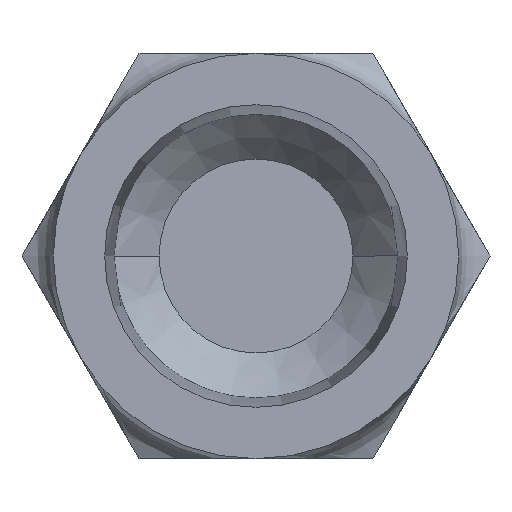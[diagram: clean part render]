
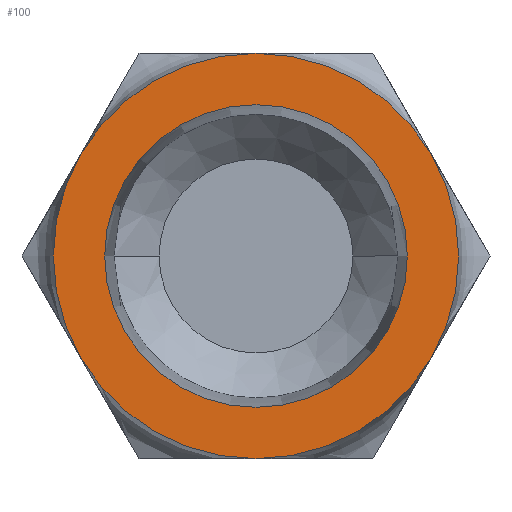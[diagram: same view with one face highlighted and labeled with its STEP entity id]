
A CAD part, left-side view. The second image highlights one B-rep face of the part: STEP entity #100.
In plain terms, the highlighted planar face has unit normal (-1, 0, 0).
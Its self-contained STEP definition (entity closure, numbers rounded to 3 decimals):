
#100 = ADVANCED_FACE( '', ( #156, #157 ), #158, .T. );
#156 = FACE_BOUND( '', #216, .T. );
#157 = FACE_OUTER_BOUND( '', #217, .T. );
#158 = PLANE( '', #218 );
#216 = EDGE_LOOP( '', ( #413, #414 ) );
#217 = EDGE_LOOP( '', ( #415, #416 ) );
#218 = AXIS2_PLACEMENT_3D( '', #417, #418, #419 );
#413 = ORIENTED_EDGE( '', *, *, #473, .T. );
#414 = ORIENTED_EDGE( '', *, *, #465, .T. );
#415 = ORIENTED_EDGE( '', *, *, #449, .T. );
#416 = ORIENTED_EDGE( '', *, *, #495, .T. );
#417 = CARTESIAN_POINT( '', ( 0., 6.75, 0. ) );
#418 = DIRECTION( '', ( -1., 0., 0. ) );
#419 = DIRECTION( '', ( 0., 1., 0. ) );
#449 = EDGE_CURVE( '', #521, #523, #525, .T. );
#465 = EDGE_CURVE( '', #556, #553, #557, .T. );
#473 = EDGE_CURVE( '', #553, #556, #568, .T. );
#495 = EDGE_CURVE( '', #523, #521, #599, .T. );
#521 = VERTEX_POINT( '', #627 );
#523 = VERTEX_POINT( '', #630 );
#525 = CIRCLE( '', #633, 13.5 );
#553 = VERTEX_POINT( '', #817 );
#556 = VERTEX_POINT( '', #821 );
#557 = CIRCLE( '', #822, 10.082 );
#568 = CIRCLE( '', #836, 10.082 );
#599 = CIRCLE( '', #1031, 13.5 );
#627 = CARTESIAN_POINT( '', ( 0., 13.5, 0. ) );
#630 = CARTESIAN_POINT( '', ( 0., -13.5, 0. ) );
#633 = AXIS2_PLACEMENT_3D( '', #1070, #1071, #1072 );
#817 = CARTESIAN_POINT( '', ( 0., 10.082, 0. ) );
#821 = CARTESIAN_POINT( '', ( 0., -10.082, 0. ) );
#822 = AXIS2_PLACEMENT_3D( '', #1096, #1097, #1098 );
#836 = AXIS2_PLACEMENT_3D( '', #1114, #1115, #1116 );
#1031 = AXIS2_PLACEMENT_3D( '', #1144, #1145, #1146 );
#1070 = CARTESIAN_POINT( '', ( 0., 0., 0. ) );
#1071 = DIRECTION( '', ( -1., 0., 0. ) );
#1072 = DIRECTION( '', ( 0., 1., 0. ) );
#1096 = CARTESIAN_POINT( '', ( 0., 0., 0. ) );
#1097 = DIRECTION( '', ( 1., 0., 0. ) );
#1098 = DIRECTION( '', ( 0., 1., 0. ) );
#1114 = CARTESIAN_POINT( '', ( 0., 0., 0. ) );
#1115 = DIRECTION( '', ( 1., 0., 0. ) );
#1116 = DIRECTION( '', ( 0., 1., 0. ) );
#1144 = CARTESIAN_POINT( '', ( 0., 0., 0. ) );
#1145 = DIRECTION( '', ( -1., 0., 0. ) );
#1146 = DIRECTION( '', ( 0., 1., 0. ) );
